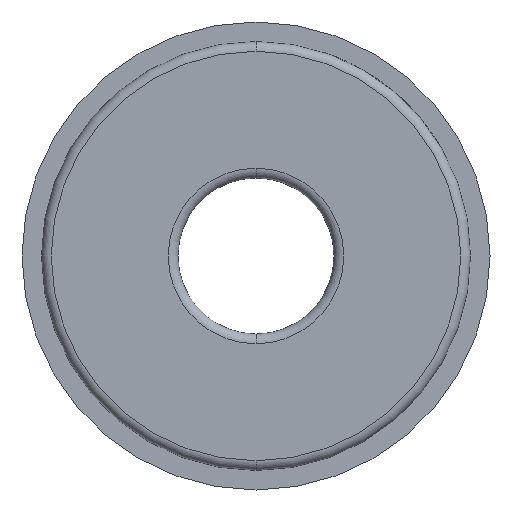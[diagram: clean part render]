
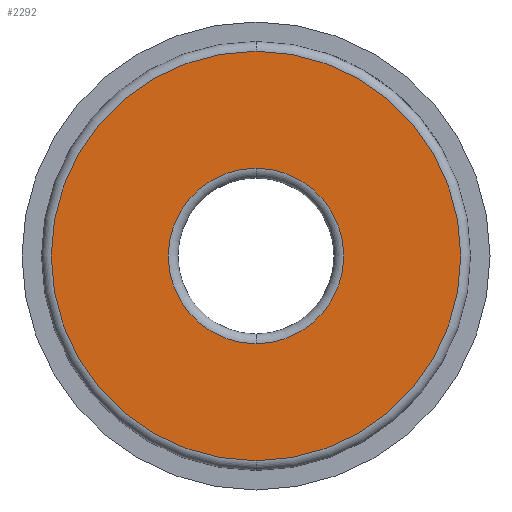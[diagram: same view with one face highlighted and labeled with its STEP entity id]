
A CAD part, front view. The second image highlights one B-rep face of the part: STEP entity #2292.
In plain terms, the highlighted planar face has unit normal (0, -1, 0).
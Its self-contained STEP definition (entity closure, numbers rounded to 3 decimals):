
#179 = DIRECTION ( 'NONE',  ( 0., 1., 0. ) ) ;
#190 = DIRECTION ( 'NONE',  ( 0., -1., 0. ) ) ;
#252 = ORIENTED_EDGE ( 'NONE', *, *, #1868, .T. ) ;
#461 = AXIS2_PLACEMENT_3D ( 'NONE', #5840, #6325, #3321 ) ;
#688 = CARTESIAN_POINT ( 'NONE',  ( 0., 0., 0. ) ) ;
#1035 = VERTEX_POINT ( 'NONE', #5076 ) ;
#1210 = DIRECTION ( 'NONE',  ( 0., 0., 1. ) ) ;
#1469 = ORIENTED_EDGE ( 'NONE', *, *, #3224, .T. ) ;
#1662 = VERTEX_POINT ( 'NONE', #2334 ) ;
#1668 = ORIENTED_EDGE ( 'NONE', *, *, #1814, .T. ) ;
#1814 = EDGE_CURVE ( 'NONE', #2074, #1662, #3650, .T. ) ;
#1824 = ORIENTED_EDGE ( 'NONE', *, *, #3260, .T. ) ;
#1868 = EDGE_CURVE ( 'NONE', #3128, #1035, #2226, .T. ) ;
#2074 = VERTEX_POINT ( 'NONE', #3134 ) ;
#2203 = PLANE ( 'NONE',  #461 ) ;
#2215 = CIRCLE ( 'NONE', #4705, 4.5 ) ;
#2226 = CIRCLE ( 'NONE', #5652, 10.5 ) ;
#2292 = ADVANCED_FACE ( 'NONE', ( #3076, #5952 ), #2203, .F. ) ;
#2334 = CARTESIAN_POINT ( 'NONE',  ( 0., 0., -4.5 ) ) ;
#2699 = EDGE_LOOP ( 'NONE', ( #1668, #1824 ) ) ;
#2824 = CARTESIAN_POINT ( 'NONE',  ( 0., 0., 0. ) ) ;
#3076 = FACE_OUTER_BOUND ( 'NONE', #3463, .T. ) ;
#3128 = VERTEX_POINT ( 'NONE', #5675 ) ;
#3134 = CARTESIAN_POINT ( 'NONE',  ( 0., 0., 4.5 ) ) ;
#3224 = EDGE_CURVE ( 'NONE', #1035, #3128, #5010, .T. ) ;
#3260 = EDGE_CURVE ( 'NONE', #1662, #2074, #2215, .T. ) ;
#3321 = DIRECTION ( 'NONE',  ( 0., 0., 1. ) ) ;
#3382 = DIRECTION ( 'NONE',  ( 0., 0., 1. ) ) ;
#3417 = CARTESIAN_POINT ( 'NONE',  ( 0., 0., 0. ) ) ;
#3426 = CARTESIAN_POINT ( 'NONE',  ( 0., 0., 0. ) ) ;
#3463 = EDGE_LOOP ( 'NONE', ( #1469, #252 ) ) ;
#3650 = CIRCLE ( 'NONE', #4650, 4.5 ) ;
#3935 = DIRECTION ( 'NONE',  ( 0., 0., 1. ) ) ;
#3944 = DIRECTION ( 'NONE',  ( 0., 0., 1. ) ) ;
#4029 = AXIS2_PLACEMENT_3D ( 'NONE', #688, #4427, #1210 ) ;
#4427 = DIRECTION ( 'NONE',  ( 0., -1., 0. ) ) ;
#4650 = AXIS2_PLACEMENT_3D ( 'NONE', #2824, #6387, #3382 ) ;
#4705 = AXIS2_PLACEMENT_3D ( 'NONE', #3417, #179, #3935 ) ;
#5010 = CIRCLE ( 'NONE', #4029, 10.5 ) ;
#5076 = CARTESIAN_POINT ( 'NONE',  ( 0., 0., 10.5 ) ) ;
#5652 = AXIS2_PLACEMENT_3D ( 'NONE', #3426, #190, #3944 ) ;
#5675 = CARTESIAN_POINT ( 'NONE',  ( 0., 0., -10.5 ) ) ;
#5840 = CARTESIAN_POINT ( 'NONE',  ( 0., 0., 0. ) ) ;
#5952 = FACE_BOUND ( 'NONE', #2699, .T. ) ;
#6325 = DIRECTION ( 'NONE',  ( 0., 1., 0. ) ) ;
#6387 = DIRECTION ( 'NONE',  ( 0., 1., 0. ) ) ;
